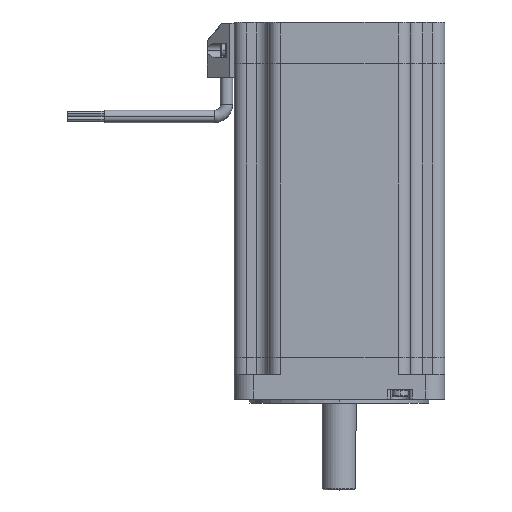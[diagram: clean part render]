
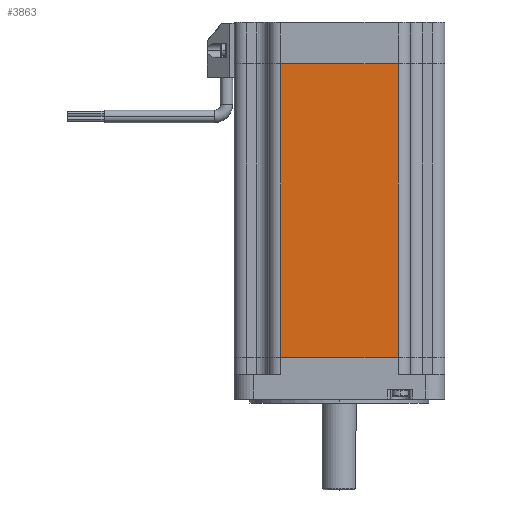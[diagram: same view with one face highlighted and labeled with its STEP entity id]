
A CAD part, top view. The second image highlights one B-rep face of the part: STEP entity #3863.
In plain terms, the highlighted planar face has unit normal (0, 0, 1).
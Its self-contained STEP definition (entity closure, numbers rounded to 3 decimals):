
#154 = LINE ( 'NONE', #9804, #9079 ) ;
#435 = VERTEX_POINT ( 'NONE', #13471 ) ;
#1069 = EDGE_CURVE ( 'NONE', #435, #10309, #154, .T. ) ;
#1090 = DIRECTION ( 'NONE',  ( 0., 1., 0. ) ) ;
#1665 = CARTESIAN_POINT ( 'NONE',  ( 43., 120., 43. ) ) ;
#1704 = EDGE_CURVE ( 'NONE', #435, #8675, #3008, .T. ) ;
#1974 = FACE_OUTER_BOUND ( 'NONE', #11663, .T. ) ;
#2073 = VECTOR ( 'NONE', #1090, 1000. ) ;
#2808 = PLANE ( 'NONE',  #11301 ) ;
#3008 = LINE ( 'NONE', #13658, #11577 ) ;
#3127 = VECTOR ( 'NONE', #6833, 1000. ) ;
#3266 = ORIENTED_EDGE ( 'NONE', *, *, #6708, .F. ) ;
#3650 = CARTESIAN_POINT ( 'NONE',  ( 24., 120., 43. ) ) ;
#3863 = ADVANCED_FACE ( 'NONE', ( #1974 ), #2808, .F. ) ;
#3894 = DIRECTION ( 'NONE',  ( 0., 0., -1. ) ) ;
#6708 = EDGE_CURVE ( 'NONE', #10309, #10502, #8854, .T. ) ;
#6833 = DIRECTION ( 'NONE',  ( 1., 0., 0. ) ) ;
#7389 = ORIENTED_EDGE ( 'NONE', *, *, #1069, .F. ) ;
#8302 = DIRECTION ( 'NONE',  ( 1., 0., 0. ) ) ;
#8611 = CARTESIAN_POINT ( 'NONE',  ( -24., 120., 43. ) ) ;
#8675 = VERTEX_POINT ( 'NONE', #11418 ) ;
#8854 = LINE ( 'NONE', #13246, #3127 ) ;
#9079 = VECTOR ( 'NONE', #9707, 1000. ) ;
#9594 = ORIENTED_EDGE ( 'NONE', *, *, #12872, .T. ) ;
#9707 = DIRECTION ( 'NONE',  ( 0., 1., 0. ) ) ;
#9804 = CARTESIAN_POINT ( 'NONE',  ( -24., 120., 43. ) ) ;
#10309 = VERTEX_POINT ( 'NONE', #8611 ) ;
#10502 = VERTEX_POINT ( 'NONE', #3650 ) ;
#10661 = LINE ( 'NONE', #10784, #2073 ) ;
#10784 = CARTESIAN_POINT ( 'NONE',  ( 24., 120., 43. ) ) ;
#11301 = AXIS2_PLACEMENT_3D ( 'NONE', #1665, #3894, #11408 ) ;
#11408 = DIRECTION ( 'NONE',  ( -1., 0., 0. ) ) ;
#11418 = CARTESIAN_POINT ( 'NONE',  ( 24., 0., 43. ) ) ;
#11577 = VECTOR ( 'NONE', #8302, 1000. ) ;
#11663 = EDGE_LOOP ( 'NONE', ( #12863, #9594, #3266, #7389 ) ) ;
#12863 = ORIENTED_EDGE ( 'NONE', *, *, #1704, .T. ) ;
#12872 = EDGE_CURVE ( 'NONE', #8675, #10502, #10661, .T. ) ;
#13246 = CARTESIAN_POINT ( 'NONE',  ( 43., 120., 43. ) ) ;
#13471 = CARTESIAN_POINT ( 'NONE',  ( -24., 0., 43. ) ) ;
#13658 = CARTESIAN_POINT ( 'NONE',  ( 43., 0., 43. ) ) ;
